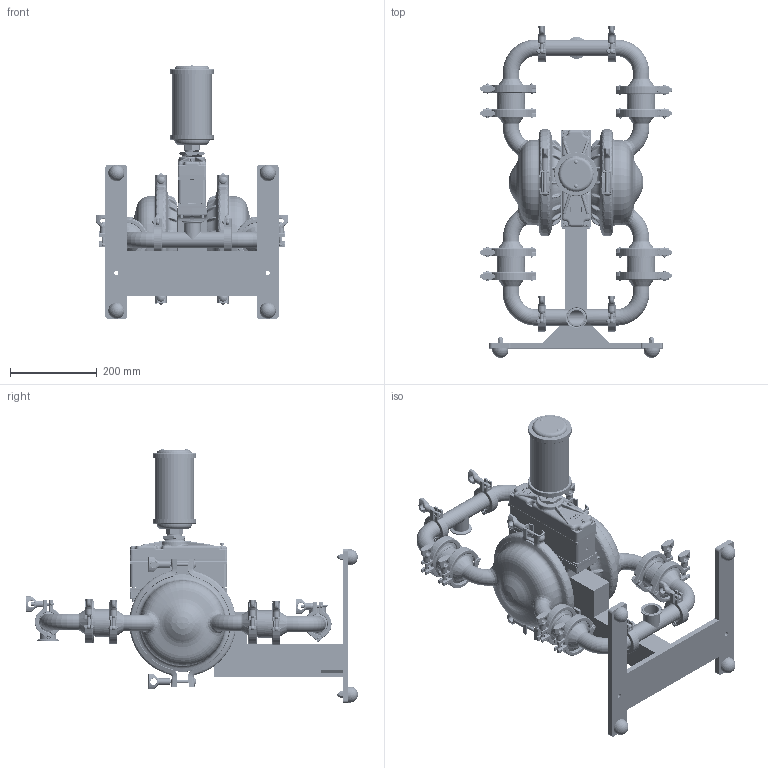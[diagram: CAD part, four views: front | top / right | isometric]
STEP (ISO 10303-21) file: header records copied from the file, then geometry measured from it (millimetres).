
FILE_DESCRIPTION((''),'2;1');
FILE_NAME('PS4_SS_SANIFLO_HS_FIX_SW0001','2015-03-25T',('nathan.hale'),(''),'PRO/ENGINEER BY PARAMETRIC TECHNOLOGY CORPORATION, 2011180','PRO/ENGINEER BY PARAMETRIC TECHNOLOGY CORPORATION, 2011180','');
FILE_SCHEMA(('CONFIG_CONTROL_DESIGN'));
Products named in the file (1): PS4_SS_SANIFLO_HS_FIX_SW0001
Bounding box: 444.01 x 765.87 x 585.8 mm (x, y, z)
Volume: 7999451.2 mm3; surface area: 2110829.4 mm2
Topology: 12 solids, 26 shells, 16210 faces, 41508 edges, 25722 vertices
Faces by surface type: plane 7866, cylinder 2565, bspline 2310, torus 1767, cone 995, sphere 552, extrusion 155
Entity records: 920531 total; most frequent: CARTESIAN_POINT 543488, ORIENTED_EDGE 82692, DIRECTION 72596, EDGE_CURVE 41346, VERTEX_POINT 25722, AXIS2_PLACEMENT_3D 24201, VECTOR 24194, LINE 24039
